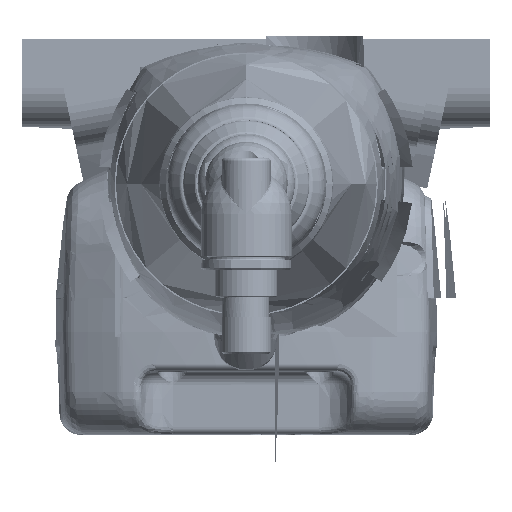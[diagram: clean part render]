
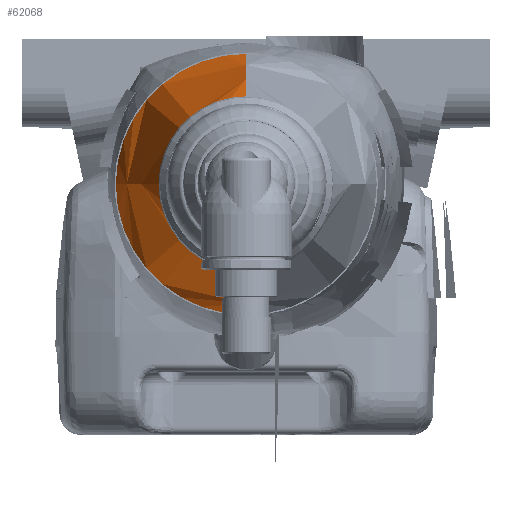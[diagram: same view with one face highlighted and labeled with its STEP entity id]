
A CAD part, top view. The second image highlights one B-rep face of the part: STEP entity #62068.
In plain terms, the highlighted free-form (B-spline) face has degree [3, 3] with [7, 4] control points.
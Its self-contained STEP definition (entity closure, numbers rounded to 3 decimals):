
#58856=CARTESIAN_POINT('',(0.,0.,32.879));
#58857=DIRECTION('',(0.,0.,1.));
#58858=DIRECTION('',(0.,1.,0.));
#58859=AXIS2_PLACEMENT_3D('',#58856,#58857,#58858);
#58861=CARTESIAN_POINT('',(0.,0.,1.382));
#58862=DIRECTION('',(0.,0.,1.));
#58863=DIRECTION('',(0.,1.,0.));
#58864=AXIS2_PLACEMENT_3D('',#58861,#58862,#58863);
#58871=CARTESIAN_POINT('',(0.,-145.125,-29.5));
#58872=DIRECTION('',(-1.,0.,0.));
#58873=DIRECTION('',(0.,0.934,0.357));
#58874=AXIS2_PLACEMENT_3D('',#58871,#58872,#58873);
#58881=CARTESIAN_POINT('',(0.,145.125,-29.5));
#58882=DIRECTION('',(1.,0.,0.));
#58883=DIRECTION('',(0.,-0.934,0.357));
#58884=AXIS2_PLACEMENT_3D('',#58881,#58882,#58883);
#59811=CARTESIAN_POINT('',(0.,26.757,1.382));
#59812=CARTESIAN_POINT('',(0.,-26.757,1.382));
#59813=VERTEX_POINT('',#59811);
#59814=VERTEX_POINT('',#59812);
#59993=CARTESIAN_POINT('',(0.,-17.989,32.879));
#59994=CARTESIAN_POINT('',(0.,17.989,32.879));
#59995=VERTEX_POINT('',#59993);
#59996=VERTEX_POINT('',#59994);
#62030=CARTESIAN_POINT('',(1.687,26.819,
0.738));
#62031=CARTESIAN_POINT('',(1.564,24.854,11.935));
#62032=CARTESIAN_POINT('',(1.372,21.811,22.887));
#62033=CARTESIAN_POINT('',(1.115,17.719,33.49));
#62034=CARTESIAN_POINT('',(-14.817,27.857,
0.738));
#62035=CARTESIAN_POINT('',(-13.732,25.817,
11.935));
#62036=CARTESIAN_POINT('',(-12.05,22.656,
22.887));
#62037=CARTESIAN_POINT('',(-9.789,18.405,
33.49));
#62038=CARTESIAN_POINT('',(-26.872,16.537,
0.738));
#62039=CARTESIAN_POINT('',(-24.903,15.326,
11.935));
#62040=CARTESIAN_POINT('',(-21.854,13.449,
22.887));
#62041=CARTESIAN_POINT('',(-17.754,10.926,
33.49));
#62042=CARTESIAN_POINT('',(-26.872,0.,0.738));
#62043=CARTESIAN_POINT('',(-24.903,0.,11.935));
#62044=CARTESIAN_POINT('',(-21.854,0.,22.887));
#62045=CARTESIAN_POINT('',(-17.754,0.,33.49));
#62046=CARTESIAN_POINT('',(-26.872,-16.537,
0.738));
#62047=CARTESIAN_POINT('',(-24.903,-15.326,
11.935));
#62048=CARTESIAN_POINT('',(-21.854,-13.449,
22.887));
#62049=CARTESIAN_POINT('',(-17.754,-10.926,
33.49));
#62050=CARTESIAN_POINT('',(-14.817,-27.857,
0.738));
#62051=CARTESIAN_POINT('',(-13.732,-25.817,
11.935));
#62052=CARTESIAN_POINT('',(-12.05,-22.656,
22.887));
#62053=CARTESIAN_POINT('',(-9.789,-18.405,
33.49));
#62054=CARTESIAN_POINT('',(1.687,-26.819,
0.738));
#62055=CARTESIAN_POINT('',(1.564,-24.854,
11.935));
#62056=CARTESIAN_POINT('',(1.372,-21.811,
22.887));
#62057=CARTESIAN_POINT('',(1.115,-17.719,
33.49));
#62058=(BOUNDED_SURFACE()B_SPLINE_SURFACE(3,3,((#62030,#62031,#62032,#62033),(
#62034,#62035,#62036,#62037),(#62038,#62039,#62040,#62041),(#62042,#62043,
#62044,#62045),(#62046,#62047,#62048,#62049),(#62050,#62051,#62052,#62053),(
#62054,#62055,#62056,#62057)),.UNSPECIFIED.,.F.,.F.,.F.)B_SPLINE_SURFACE_WITH_KNOTS((4,3,4),(4,4),(0.,1.,2.),(0.,1.),.UNSPECIFIED.)GEOMETRIC_REPRESENTATION_ITEM()RATIONAL_B_SPLINE_SURFACE(((1.19,1.186,
1.186,1.19),(0.94,0.937,
0.937,0.94),(0.94,0.937,
0.937,0.94),(1.19,1.186,
1.186,1.19),(0.94,0.937,
0.937,0.94),(0.94,0.937,
0.937,0.94),(1.19,1.186,
1.186,1.19)))REPRESENTATION_ITEM('')SURFACE());
#62059=ORIENTED_EDGE('',*,*,#62020,.T.);
#62061=ORIENTED_EDGE('',*,*,#62060,.T.);
#62063=ORIENTED_EDGE('',*,*,#62062,.F.);
#62065=ORIENTED_EDGE('',*,*,#62064,.F.);
#62066=EDGE_LOOP('',(#62059,#62061,#62063,#62065));
#62067=FACE_OUTER_BOUND('',#62066,.F.);
#62068=ADVANCED_FACE('',(#62067),#62058,.T.);
#58860=CIRCLE('',#58859,17.989);
#58865=CIRCLE('',#58864,26.757);
#58875=CIRCLE('',#58874,174.635);
#58885=CIRCLE('',#58884,174.635);
#62020=EDGE_CURVE('',#59996,#59995,#58860,.T.);
#62060=EDGE_CURVE('',#59995,#59814,#58885,.T.);
#62062=EDGE_CURVE('',#59813,#59814,#58865,.T.);
#62064=EDGE_CURVE('',#59996,#59813,#58875,.T.);
